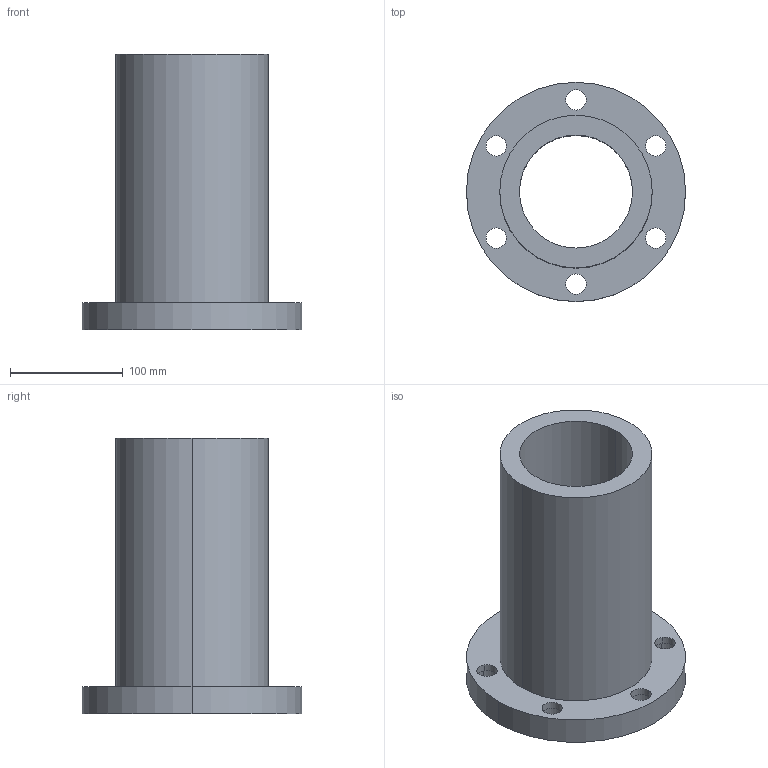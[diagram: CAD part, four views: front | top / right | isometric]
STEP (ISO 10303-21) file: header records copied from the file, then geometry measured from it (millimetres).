
FILE_DESCRIPTION((''),'2;1');
FILE_NAME('PRT0020','2008-04-05T',('cmliu'),(''),'PRO/ENGINEER BY PARAMETRIC TECHNOLOGY CORPORATION, 2004110','PRO/ENGINEER BY PARAMETRIC TECHNOLOGY CORPORATION, 2004110','');
FILE_SCHEMA(('CONFIG_CONTROL_DESIGN'));
Length unit declared in the file: millimetre
Products named in the file (1): PRT0020
Bounding box: 194 x 194 x 244 mm (x, y, z)
Volume: 1876432.5 mm3; surface area: 235726.3 mm2
Topology: 1 solids, 1 shells, 39 faces, 98 edges, 68 vertices
Faces by surface type: cylinder 30, plane 9
Entity records: 1290 total; most frequent: DIRECTION 244, CARTESIAN_POINT 205, ORIENTED_EDGE 196, AXIS2_PLACEMENT_3D 107, EDGE_CURVE 98, VERTEX_POINT 68, CIRCLE 68, EDGE_LOOP 60
